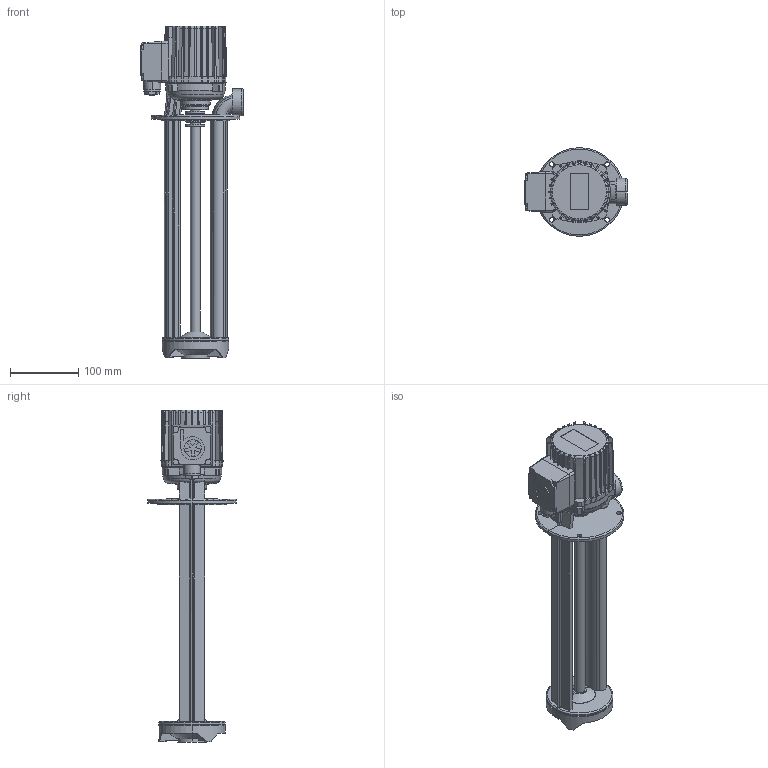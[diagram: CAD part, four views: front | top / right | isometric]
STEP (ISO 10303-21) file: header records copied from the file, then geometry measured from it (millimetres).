
FILE_DESCRIPTION(('no description'),'unknown implementation level');
FILE_NAME('TB40_350_21.stp',' ',('K. H. Brinkmann GmbH & Co. KG'),('CADClick - KiM GmbH - www.kimweb.de'),'unknown preprocess','ACIS','unknown authorization');
FILE_SCHEMA(('automotive_design'));
Length unit declared in the file: millimetre
Products named in the file (3): 1; 2; 3
Bounding box: 150 x 130 x 487 mm (x, y, z)
Volume: 1509406.9 mm3; surface area: 237095.5 mm2
Topology: 3 solids, 3 shells, 602 faces, 1605 edges, 1027 vertices
Faces by surface type: plane 287, cylinder 153, torus 87, cone 75
Entity records: 41009 total; most frequent: CARTESIAN_POINT 8203, STYLED_ITEM 3237, PRESENTATION_STYLE_ASSIGNMENT 3237, COLOUR_RGB 3237, ORIENTED_EDGE 3210, DIRECTION 3052, EDGE_CURVE 1605, CURVE_STYLE 1605
